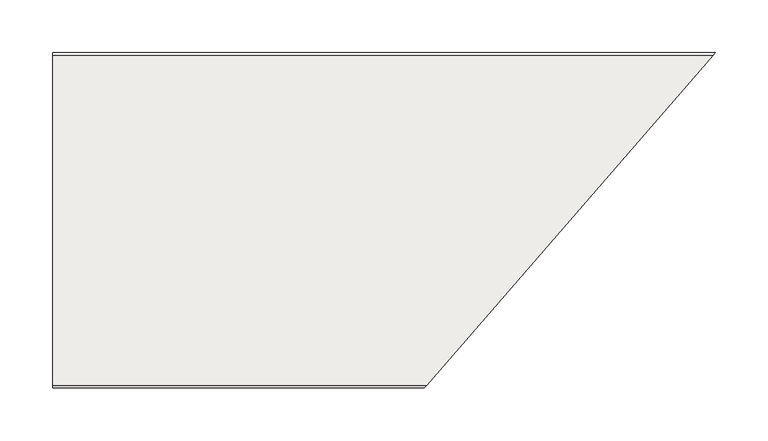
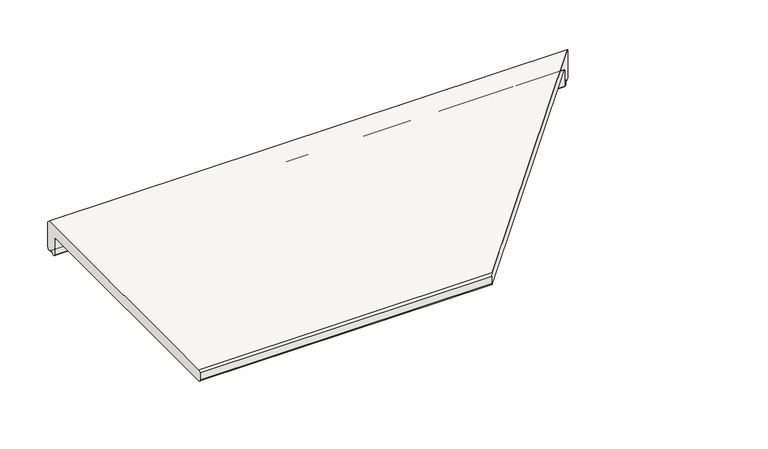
"""IFC4 building model written with IfcOpenShell, lengths in millimetres: slab geometry, ROSA GRES_L62 (corte-profundidad) : Pieza L62_Mistery_Grey_Anti-Slip."""

from ifc_helpers import new_model, si_unit, frame, origin, place, context, project, spatial, polyline, circle_curve, ellipse_curve, source, transform, mapped, element, save
from ifc_brep_helpers import plane_surface, cylinder_surface, revolved_surface, advanced_brep


def slab_a11157a7(model_context):
    return source(origin(), model_context, "Body", "AdvancedBrep", [
        advanced_brep(
        [(0.0, -11.8865989, -24.0), (0.0, -13.8100559, -22.076543), (0.0, -13.8100559, -2.5683173), (0.0, -16.4230659, 0.0446927), (0.0, -314.5178771, 0.0446927), (0.0, -317.0, 2.5268156), (0.0, -317.0, 11.5), (0.0, -314.5, 14.0), (0.0, -2.5, 14.0), (0.0, 0.0, 11.5), (0.0, 0.0, -20.5), (0.0, -2.5, -23.0), (0.0, -5.422949, -23.0), (0.0, -9.4124925, -23.0), (0.0, -9.4124925, -24.0), (617.4135297, -9.4124925, -24.0), (615.2703915, -11.8865989, -24.0), (620.8693806, -5.422949, -23.0), (617.4135297, -9.4124925, -23.0), (623.4013185, -2.5, -23.0), (625.5668864, 0.0, -20.5), (625.5668864, 0.0, 11.5), (353.1384405, -314.5, 14.0), (623.4013185, -2.5, 14.0), (350.9728726, -317.0, 2.5268156), (350.9728726, -317.0, 11.5), (353.1229549, -314.5178771, 0.0446927), (611.3407804, -16.4230659, 0.0446927), (613.6042408, -13.8100559, -2.5683173), (613.6042408, -13.8100559, -22.076543)],
        [
            (0, 1, circle_curve(frame((0.0, -11.8865989, -22.076543), z_axis=(-1.0, 0.0, 0.0), x_axis=(0.0, -1.0, 0.0)), 1.923457)),
            (1, 2),
            (2, 3, circle_curve(frame((0.0, -16.4230659, -2.5683173), z_axis=(1.0, 0.0, 0.0), x_axis=(0.0, -1.0, 0.0)), 2.6130101)),
            (3, 4),
            (4, 5, circle_curve(frame((0.0, -314.5178771, 2.5268156), z_axis=(-1.0, 0.0, 0.0), x_axis=(0.0, -1.0, 0.0)), 2.4821229)),
            (5, 6),
            (6, 7),
            (7, 8),
            (8, 9),
            (9, 10),
            (10, 11, circle_curve(frame((0.0, -2.5, -20.5), z_axis=(-1.0, 0.0, 0.0), x_axis=(0.0, -1.0, 0.0)), 2.5)),
            (11, 12),
            (12, 13, circle_curve(frame((0.0, -7.4177208, -23.0), z_axis=(1.0, 0.0, 0.0), x_axis=(0.0, -1.0, 0.0)), 1.9947717)),
            (13, 14),
            (14, 0),
            (14, 15),
            (15, 16),
            (16, 0),
            (12, 17),
            (17, 18, ellipse_curve(frame((619.1414551, -7.4177208, -23.0), z_axis=(0.7558534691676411, -0.6547408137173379, 0.0), x_axis=(0.654740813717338, 0.7558534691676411, 0.0)), 2.6390985, 1.9947717)),
            (18, 13),
            (11, 19),
            (19, 17),
            (10, 20),
            (20, 19, ellipse_curve(frame((623.4013185, -2.5, -20.5), z_axis=(-0.7558534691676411, 0.6547408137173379, 0.0), x_axis=(-0.654740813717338, -0.7558534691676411, 0.0)), 3.3075194, 2.5)),
            (9, 21),
            (21, 20),
            (7, 22),
            (22, 23),
            (23, 8),
            (5, 24),
            (24, 25),
            (25, 6),
            (4, 26),
            (26, 24, ellipse_curve(frame((353.1229549, -314.5178771, 2.5268156), z_axis=(-0.7558534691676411, 0.6547408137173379, 0.0), x_axis=(-0.654740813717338, -0.7558534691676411, 0.0)), 3.2838678, 2.4821229)),
            (3, 27),
            (27, 26),
            (2, 28),
            (28, 27, ellipse_curve(frame((611.3407804, -16.4230659, -2.5683173), z_axis=(0.7558534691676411, -0.6547408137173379, 0.0), x_axis=(0.654740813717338, 0.7558534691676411, 0.0)), 3.4570326, 2.6130101)),
            (1, 29),
            (29, 28),
            (16, 29, ellipse_curve(frame((615.2703915, -11.8865989, -22.076543), z_axis=(-0.7558534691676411, 0.6547408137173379, 0.0), x_axis=(-0.654740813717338, -0.7558534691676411, 0.0)), 2.5447485, 1.923457)),
            (23, 21),
            (25, 22),
            (18, 15),
        ],
        [
            plane_surface(frame((0.0, 0.0, 0.0), z_axis=(-1.0, 0.0, 0.0), x_axis=(0.0, 0.0, 1.0))),
            plane_surface(frame((0.0, -11.8865989, -24.0), z_axis=(0.0, 0.0, -1.0), x_axis=(1.0, 0.0, 0.0))),
            revolved_surface(polyline([(620.8693806, -9.412492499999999, -23.0), (0.0, -9.412492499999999, -23.0)]), (0.0, -7.4177208, -23.0), (1.0, 0.0, 0.0)),
            plane_surface(frame((0.0, -5.422949, -23.0), z_axis=(0.0, 0.0, -1.0), x_axis=(1.0, 0.0, 0.0))),
            cylinder_surface(frame((0.0, -2.5, -20.5), z_axis=(-1.0, 0.0, 0.0), x_axis=(0.0, -1.0, 0.0)), 2.5),
            plane_surface(frame((0.0, 0.0, -20.5), z_axis=(0.0, 1.0, 0.0), x_axis=(1.0, 0.0, 0.0))),
            plane_surface(frame((0.0, -2.5, 14.0), z_axis=(0.0, 0.0, 1.0), x_axis=(1.0, 0.0, 0.0))),
            plane_surface(frame((0.0, -317.0, 11.5), z_axis=(0.0, -1.0, 0.0), x_axis=(1.0, 0.0, 0.0))),
            cylinder_surface(frame((0.0, -314.5178771, 2.5268156), z_axis=(-1.0, 0.0, 0.0), x_axis=(0.0, -1.0, 0.0)), 2.4821229),
            plane_surface(frame((0.0, -314.5178771, 0.0446927), z_axis=(0.0, 0.0, -1.0), x_axis=(1.0, 0.0, 0.0))),
            revolved_surface(polyline([(613.6042408, -19.036076, -2.5683173), (0.0, -19.036076, -2.5683173)]), (0.0, -16.4230659, -2.5683173), (1.0, 0.0, 0.0)),
            plane_surface(frame((0.0, -13.8100559, -2.5683173), z_axis=(0.0, -1.0, 0.0), x_axis=(1.0, 0.0, 0.0))),
            cylinder_surface(frame((0.0, -11.8865989, -22.076543), z_axis=(-1.0, 0.0, 0.0), x_axis=(0.0, -1.0, 0.0)), 1.923457),
            plane_surface(frame((0.0, 0.0, 11.5), z_axis=(0.0, 0.7071067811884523, 0.7071067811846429), x_axis=(1.0, 0.0, 0.0))),
            plane_surface(frame((0.0, -314.5, 14.0), z_axis=(0.0, -0.7071067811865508, 0.7071067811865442), x_axis=(1.0, 0.0, 0.0))),
            plane_surface(frame((0.0, -9.4124925, -24.0), z_axis=(0.0, 1.0, 0.0), x_axis=(1.0, 0.0, 0.0))),
            plane_surface(frame((350.539759, -317.5, 86.9871832), z_axis=(0.7558534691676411, -0.6547408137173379, 0.0), x_axis=(0.0, 0.0, -1.0))),
        ],
        [
            (0, [[1, 2, 3, 4, 5, 6, 7, 8, 9, 10, 11, 12, 13, 14, 15]]),
            (1, [[16, 17, 18, -15]]),
            (2, [[19, 20, 21, -13]]),
            (3, [[22, 23, -19, -12]]),
            (4, [[24, 25, -22, -11]]),
            (5, [[26, 27, -24, -10]]),
            (6, [[28, 29, 30, -8]]),
            (7, [[31, 32, 33, -6]]),
            (8, [[34, 35, -31, -5]]),
            (9, [[36, 37, -34, -4]]),
            (10, [[38, 39, -36, -3]]),
            (11, [[40, 41, -38, -2]]),
            (12, [[-18, 42, -40, -1]]),
            (13, [[-30, 43, -26, -9]]),
            (14, [[-33, 44, -28, -7]]),
            (15, [[-21, 45, -16, -14]]),
            (16, [[-45, -20, -23, -25, -27, -43, -29, -44, -32, -35, -37, -39, -41, -42, -17]]),
        ],
    ),
    ])


if __name__ == "__main__":
    model = new_model("IFC4")
    model_context = context("Model", 3, world=origin())
    ifc_project = project(units=[si_unit("LENGTHUNIT", "METRE", prefix="MILLI")], contexts=[model_context])
    site = spatial("IfcSite", under=ifc_project)
    building = spatial("IfcBuilding", under=site)
    placement = place(None, origin())
    slab_shape = slab_a11157a7(model_context)
    element("IfcSlab", 1, ObjectType="ROSA GRES_L62 (corte-profundidad) : Pieza L62_Mistery_Grey_Anti-Slip", at=placement, inside=building, context=model_context, shape_type="MappedRepresentation", body=[
        mapped(slab_shape, transform((0.0, 0.0, 0.0), x_axis=(1.0, 0.0, 0.0), y_axis=(0.0, 1.0, 0.0), z_axis=(0.0, 0.0, 1.0))),
    ])
    save(model, "model.ifc")
